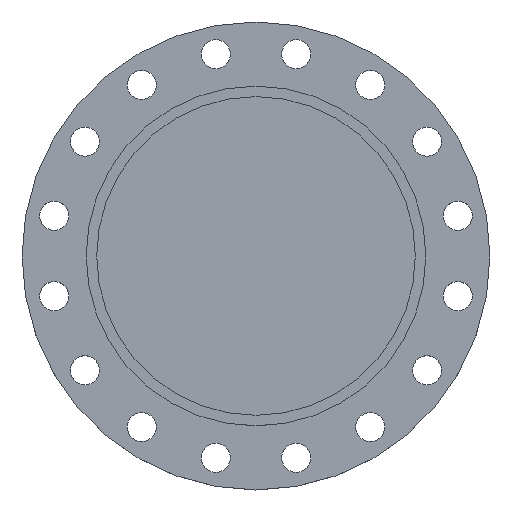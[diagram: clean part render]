
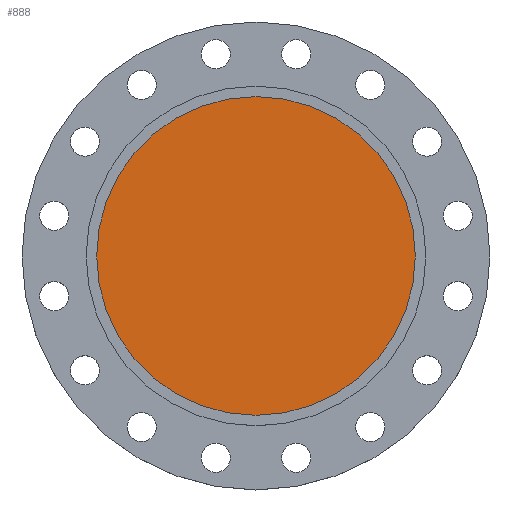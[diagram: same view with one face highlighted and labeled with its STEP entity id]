
A CAD part, top view. The second image highlights one B-rep face of the part: STEP entity #888.
In plain terms, the highlighted planar face has unit normal (0, 0, 1).
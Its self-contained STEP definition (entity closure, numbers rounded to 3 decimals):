
#112 = CARTESIAN_POINT ( 'NONE',  ( 197.5, 0., -5.5 ) ) ;
#327 = AXIS2_PLACEMENT_3D ( 'NONE', #448, #446, #445 ) ;
#351 = DIRECTION ( 'NONE',  ( -1., 0., 0. ) ) ;
#352 = DIRECTION ( 'NONE',  ( 0., 0., -1. ) ) ;
#353 = CARTESIAN_POINT ( 'NONE',  ( 0., 0., -5.5 ) ) ;
#408 = CARTESIAN_POINT ( 'NONE',  ( -197.5, 0., -5.5 ) ) ;
#445 = DIRECTION ( 'NONE',  ( -1., 0., 0. ) ) ;
#446 = DIRECTION ( 'NONE',  ( 0., 0., -1. ) ) ;
#448 = CARTESIAN_POINT ( 'NONE',  ( 0., 0., -5.5 ) ) ;
#467 = AXIS2_PLACEMENT_3D ( 'NONE', #520, #518, #517 ) ;
#517 = DIRECTION ( 'NONE',  ( 1., 0., 0. ) ) ;
#518 = DIRECTION ( 'NONE',  ( 0., 0., 1. ) ) ;
#520 = CARTESIAN_POINT ( 'NONE',  ( 197.5, 0., -5.5 ) ) ;
#521 = PLANE ( 'NONE',  #467 ) ;
#522 = FACE_OUTER_BOUND ( 'NONE', #1422, .T. ) ;
#888 = ADVANCED_FACE ( 'NONE', ( #522 ), #521, .T. ) ;
#951 = EDGE_CURVE ( 'NONE', #1392, #1015, #1136, .T. ) ;
#1015 = VERTEX_POINT ( 'NONE', #408 ) ;
#1071 = EDGE_CURVE ( 'NONE', #1015, #1392, #1165, .T. ) ;
#1075 = AXIS2_PLACEMENT_3D ( 'NONE', #353, #352, #351 ) ;
#1136 = CIRCLE ( 'NONE', #327, 197.5 ) ;
#1165 = CIRCLE ( 'NONE', #1075, 197.5 ) ;
#1260 = ORIENTED_EDGE ( 'NONE', *, *, #1071, .F. ) ;
#1262 = ORIENTED_EDGE ( 'NONE', *, *, #951, .F. ) ;
#1392 = VERTEX_POINT ( 'NONE', #112 ) ;
#1422 = EDGE_LOOP ( 'NONE', ( #1260, #1262 ) ) ;
